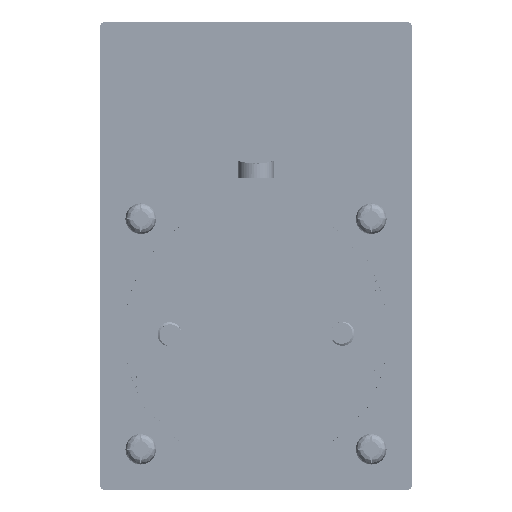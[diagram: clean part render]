
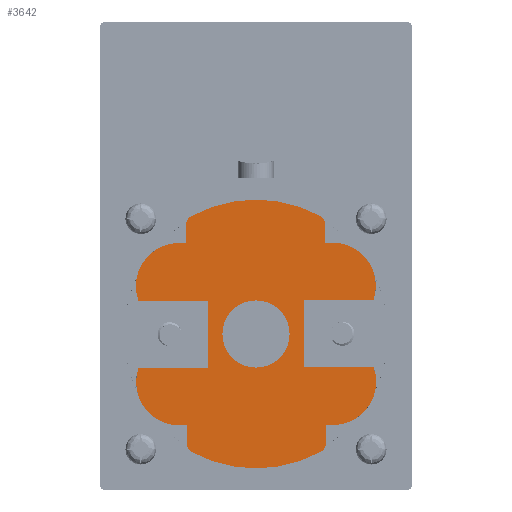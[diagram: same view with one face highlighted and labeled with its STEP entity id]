
A CAD part, front view. The second image highlights one B-rep face of the part: STEP entity #3642.
In plain terms, the highlighted planar face has unit normal (0, -1, 0).
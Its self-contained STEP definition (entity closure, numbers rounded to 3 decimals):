
#1319=FACE_BOUND('',#8009,.T.);
#1320=FACE_BOUND('',#8010,.T.);
#3642=ADVANCED_FACE('',(#1319,#1320),#4940,.F.);
#4940=PLANE('',#32927);
#8009=EDGE_LOOP('',(#15445,#15446,#15447,#15448,#15449,#15450,#15451,#15452,
#15453,#15454,#15455,#15456,#15457,#15458,#15459,#15460,#15461,#15462,#15463,
#15464,#15465,#15466,#15467,#15468,#15469));
#8010=EDGE_LOOP('',(#15470));
#8917=CIRCLE('',#31413,2.);
#8919=CIRCLE('',#31416,28.);
#8922=CIRCLE('',#31420,2.);
#8925=CIRCLE('',#31429,2.);
#8927=CIRCLE('',#31432,28.);
#8930=CIRCLE('',#31436,2.);
#9560=CIRCLE('',#32827,9.);
#9563=CIRCLE('',#32833,9.);
#9564=CIRCLE('',#32836,9.);
#9566=CIRCLE('',#32840,8.96);
#9568=CIRCLE('',#32844,9.);
#9588=CIRCLE('',#32917,7.);
#15445=ORIENTED_EDGE('',*,*,#25116,.F.);
#15446=ORIENTED_EDGE('',*,*,#24677,.T.);
#15447=ORIENTED_EDGE('',*,*,#24680,.T.);
#15448=ORIENTED_EDGE('',*,*,#22637,.T.);
#15449=ORIENTED_EDGE('',*,*,#22636,.T.);
#15450=ORIENTED_EDGE('',*,*,#22632,.T.);
#15451=ORIENTED_EDGE('',*,*,#22629,.T.);
#15452=ORIENTED_EDGE('',*,*,#22612,.T.);
#15453=ORIENTED_EDGE('',*,*,#24683,.T.);
#15454=ORIENTED_EDGE('',*,*,#24686,.T.);
#15455=ORIENTED_EDGE('',*,*,#24689,.T.);
#15456=ORIENTED_EDGE('',*,*,#25123,.F.);
#15457=ORIENTED_EDGE('',*,*,#25118,.F.);
#15458=ORIENTED_EDGE('',*,*,#25124,.F.);
#15459=ORIENTED_EDGE('',*,*,#24663,.T.);
#15460=ORIENTED_EDGE('',*,*,#24666,.T.);
#15461=ORIENTED_EDGE('',*,*,#22566,.T.);
#15462=ORIENTED_EDGE('',*,*,#22565,.T.);
#15463=ORIENTED_EDGE('',*,*,#22561,.T.);
#15464=ORIENTED_EDGE('',*,*,#22558,.T.);
#15465=ORIENTED_EDGE('',*,*,#22540,.T.);
#15466=ORIENTED_EDGE('',*,*,#24668,.T.);
#15467=ORIENTED_EDGE('',*,*,#24672,.T.);
#15468=ORIENTED_EDGE('',*,*,#25115,.F.);
#15469=ORIENTED_EDGE('',*,*,#25110,.F.);
#15470=ORIENTED_EDGE('',*,*,#25109,.F.);
#19436=VERTEX_POINT('',#45323);
#19437=VERTEX_POINT('',#45325);
#19450=VERTEX_POINT('',#45354);
#19453=VERTEX_POINT('',#45362);
#19455=VERTEX_POINT('',#45368);
#19458=VERTEX_POINT('',#45376);
#19496=VERTEX_POINT('',#45469);
#19497=VERTEX_POINT('',#45471);
#19510=VERTEX_POINT('',#45499);
#19513=VERTEX_POINT('',#45507);
#19515=VERTEX_POINT('',#45513);
#19518=VERTEX_POINT('',#45521);
#20853=VERTEX_POINT('',#79398);
#20854=VERTEX_POINT('',#79400);
#20856=VERTEX_POINT('',#79408);
#20859=VERTEX_POINT('',#79416);
#20862=VERTEX_POINT('',#79432);
#20863=VERTEX_POINT('',#79434);
#20866=VERTEX_POINT('',#79450);
#20868=VERTEX_POINT('',#79462);
#20870=VERTEX_POINT('',#79468);
#21158=VERTEX_POINT('',#107849);
#21159=VERTEX_POINT('',#107852);
#21160=VERTEX_POINT('',#107853);
#21163=VERTEX_POINT('',#107868);
#21164=VERTEX_POINT('',#107869);
#22540=EDGE_CURVE('',#19437,#19436,#27010,.T.);
#22558=EDGE_CURVE('',#19450,#19437,#8917,.T.);
#22561=EDGE_CURVE('',#19453,#19450,#8919,.T.);
#22565=EDGE_CURVE('',#19455,#19453,#8922,.T.);
#22566=EDGE_CURVE('',#19458,#19455,#27028,.T.);
#22612=EDGE_CURVE('',#19497,#19496,#27072,.T.);
#22629=EDGE_CURVE('',#19510,#19497,#8925,.T.);
#22632=EDGE_CURVE('',#19513,#19510,#8927,.T.);
#22636=EDGE_CURVE('',#19515,#19513,#8930,.T.);
#22637=EDGE_CURVE('',#19518,#19515,#27089,.T.);
#24663=EDGE_CURVE('',#20854,#20853,#9560,.T.);
#24666=EDGE_CURVE('',#20853,#19458,#28108,.T.);
#24668=EDGE_CURVE('',#19436,#20856,#28110,.T.);
#24672=EDGE_CURVE('',#20856,#20859,#9563,.T.);
#24677=EDGE_CURVE('',#20863,#20862,#9564,.T.);
#24680=EDGE_CURVE('',#20862,#19518,#28116,.T.);
#24683=EDGE_CURVE('',#19496,#20866,#9566,.T.);
#24686=EDGE_CURVE('',#20866,#20868,#28117,.T.);
#24689=EDGE_CURVE('',#20868,#20870,#9568,.T.);
#25109=EDGE_CURVE('',#21158,#21158,#9588,.T.);
#25110=EDGE_CURVE('',#21159,#21160,#28270,.T.);
#25115=EDGE_CURVE('',#21160,#20859,#28275,.T.);
#25116=EDGE_CURVE('',#20863,#21159,#28276,.T.);
#25118=EDGE_CURVE('',#21163,#21164,#28278,.T.);
#25123=EDGE_CURVE('',#21164,#20870,#28283,.T.);
#25124=EDGE_CURVE('',#20854,#21163,#28284,.T.);
#27010=LINE('',#45324,#29214);
#27028=LINE('',#45375,#29232);
#27072=LINE('',#45470,#29276);
#27089=LINE('',#45520,#29293);
#28108=LINE('',#79405,#30312);
#28110=LINE('',#79409,#30314);
#28116=LINE('',#79439,#30320);
#28117=LINE('',#79463,#30321);
#28270=LINE('',#107851,#30474);
#28275=LINE('',#107861,#30479);
#28276=LINE('',#107863,#30480);
#28278=LINE('',#107867,#30482);
#28283=LINE('',#107877,#30487);
#28284=LINE('',#107879,#30488);
#29214=VECTOR('',#34473,1.);
#29232=VECTOR('',#34515,1.);
#29276=VECTOR('',#34567,1.);
#29293=VECTOR('',#34608,1.);
#30312=VECTOR('',#38411,1.);
#30314=VECTOR('',#38415,1.);
#30320=VECTOR('',#38437,1.);
#30321=VECTOR('',#38444,1.);
#30474=VECTOR('',#38751,1.);
#30479=VECTOR('',#38758,1.);
#30480=VECTOR('',#38761,1.);
#30482=VECTOR('',#38767,1.);
#30487=VECTOR('',#38774,1.);
#30488=VECTOR('',#38777,1.);
#31413=AXIS2_PLACEMENT_3D('',#45359,#34495,#34496);
#31416=AXIS2_PLACEMENT_3D('',#45365,#34502,#34503);
#31420=AXIS2_PLACEMENT_3D('',#45373,#34511,#34512);
#31429=AXIS2_PLACEMENT_3D('',#45504,#34588,#34589);
#31432=AXIS2_PLACEMENT_3D('',#45510,#34595,#34596);
#31436=AXIS2_PLACEMENT_3D('',#45518,#34604,#34605);
#32827=AXIS2_PLACEMENT_3D('',#79399,#38404,#38405);
#32833=AXIS2_PLACEMENT_3D('',#79417,#38422,#38423);
#32836=AXIS2_PLACEMENT_3D('',#79433,#38430,#38431);
#32840=AXIS2_PLACEMENT_3D('',#79451,#38440,#38441);
#32844=AXIS2_PLACEMENT_3D('',#79469,#38450,#38451);
#32917=AXIS2_PLACEMENT_3D('',#107848,#38747,#38748);
#32927=AXIS2_PLACEMENT_3D('',#107883,#38783,#38784);
#34473=DIRECTION('',(0.003,0.,-1.));
#34495=DIRECTION('',(0.,-1.,0.));
#34496=DIRECTION('',(1.,0.,0.003));
#34502=DIRECTION('',(0.,-1.,0.));
#34503=DIRECTION('',(1.,0.,0.003));
#34511=DIRECTION('',(0.,-1.,0.));
#34512=DIRECTION('',(1.,0.,0.003));
#34515=DIRECTION('',(-0.003,0.,1.));
#34567=DIRECTION('',(-0.003,0.,1.));
#34588=DIRECTION('',(0.,-1.,0.));
#34589=DIRECTION('',(1.,0.,0.003));
#34595=DIRECTION('',(0.,-1.,0.));
#34596=DIRECTION('',(1.,0.,0.003));
#34604=DIRECTION('',(0.,-1.,0.));
#34605=DIRECTION('',(1.,0.,0.003));
#34608=DIRECTION('',(0.003,0.,-1.));
#38404=DIRECTION('',(0.,-1.,0.));
#38405=DIRECTION('',(1.,0.,0.003));
#38411=DIRECTION('',(-1.,0.,-0.003));
#38415=DIRECTION('',(-1.,0.,-0.003));
#38422=DIRECTION('',(0.,-1.,0.));
#38423=DIRECTION('',(-1.,0.,-0.003));
#38430=DIRECTION('',(0.,-1.,0.));
#38431=DIRECTION('',(-0.89,0.,0.456));
#38437=DIRECTION('',(1.,0.,0.003));
#38440=DIRECTION('',(0.,-1.,0.));
#38441=DIRECTION('',(0.,0.,-1.));
#38444=DIRECTION('',(1.,0.,0.003));
#38450=DIRECTION('',(0.,-1.,0.));
#38451=DIRECTION('',(0.,0.,-1.));
#38747=DIRECTION('',(0.,-1.,0.));
#38748=DIRECTION('',(-1.,0.,-0.003));
#38751=DIRECTION('',(-0.003,0.,1.));
#38758=DIRECTION('',(-1.,0.,-0.003));
#38761=DIRECTION('',(1.,0.,0.003));
#38767=DIRECTION('',(0.003,0.,-1.));
#38774=DIRECTION('',(1.,0.,0.003));
#38777=DIRECTION('',(-1.,0.,-0.003));
#38783=DIRECTION('',(0.,1.,0.));
#38784=DIRECTION('',(0.,0.,1.));
#45323=CARTESIAN_POINT('',(-14.549,-121.6,18.963));
#45324=CARTESIAN_POINT('',(-14.558,-121.6,22.761));
#45325=CARTESIAN_POINT('',(-14.558,-121.6,22.761));
#45354=CARTESIAN_POINT('',(-13.525,-121.6,24.517));
#45359=CARTESIAN_POINT('',(-12.558,-121.6,22.766));
#45362=CARTESIAN_POINT('',(13.398,-121.6,24.586));
#45365=CARTESIAN_POINT('',(0.,-121.6,0.));
#45368=CARTESIAN_POINT('',(14.441,-121.6,22.835));
#45373=CARTESIAN_POINT('',(12.441,-121.6,22.83));
#45375=CARTESIAN_POINT('',(14.451,-121.6,19.037));
#45376=CARTESIAN_POINT('',(14.451,-121.6,19.037));
#45469=CARTESIAN_POINT('',(14.548,-121.6,-18.837));
#45470=CARTESIAN_POINT('',(14.558,-121.6,-22.761));
#45471=CARTESIAN_POINT('',(14.558,-121.6,-22.761));
#45499=CARTESIAN_POINT('',(13.525,-121.6,-24.517));
#45504=CARTESIAN_POINT('',(12.558,-121.6,-22.766));
#45507=CARTESIAN_POINT('',(-13.398,-121.6,-24.586));
#45510=CARTESIAN_POINT('',(0.,-121.6,0.));
#45513=CARTESIAN_POINT('',(-14.441,-121.6,-22.835));
#45518=CARTESIAN_POINT('',(-12.441,-121.6,-22.83));
#45520=CARTESIAN_POINT('',(-14.451,-121.6,-19.037));
#45521=CARTESIAN_POINT('',(-14.451,-121.6,-19.037));
#79398=CARTESIAN_POINT('',(15.951,-121.6,19.041));
#79399=CARTESIAN_POINT('',(15.974,-121.6,10.041));
#79400=CARTESIAN_POINT('',(24.467,-121.6,7.063));
#79405=CARTESIAN_POINT('',(15.951,-121.6,19.041));
#79408=CARTESIAN_POINT('',(-16.049,-121.6,18.959));
#79409=CARTESIAN_POINT('',(-14.549,-121.6,18.963));
#79416=CARTESIAN_POINT('',(-24.503,-121.6,6.937));
#79417=CARTESIAN_POINT('',(-16.026,-121.6,9.959));
#79432=CARTESIAN_POINT('',(-15.951,-121.6,-19.041));
#79433=CARTESIAN_POINT('',(-15.974,-121.6,-10.041));
#79434=CARTESIAN_POINT('',(-24.468,-121.6,-7.063));
#79439=CARTESIAN_POINT('',(23.753,-121.6,-18.934));
#79450=CARTESIAN_POINT('',(15.978,-121.6,-18.959));
#79451=CARTESIAN_POINT('',(16.02,-121.6,-9.999));
#79462=CARTESIAN_POINT('',(16.119,-121.6,-18.958));
#79463=CARTESIAN_POINT('',(23.752,-121.6,-18.938));
#79468=CARTESIAN_POINT('',(24.503,-121.6,-6.937));
#79469=CARTESIAN_POINT('',(16.026,-121.6,-9.959));
#107848=CARTESIAN_POINT('',(0.,-121.6,0.));
#107849=CARTESIAN_POINT('',(-7.,-121.6,-0.018));
#107851=CARTESIAN_POINT('',(-9.982,-121.6,-7.026));
#107852=CARTESIAN_POINT('',(-9.982,-121.6,-7.026));
#107853=CARTESIAN_POINT('',(-10.018,-121.6,6.974));
#107861=CARTESIAN_POINT('',(-10.018,-121.6,6.974));
#107863=CARTESIAN_POINT('',(-34.164,-121.6,-7.088));
#107867=CARTESIAN_POINT('',(9.982,-121.6,7.026));
#107868=CARTESIAN_POINT('',(9.982,-121.6,7.026));
#107869=CARTESIAN_POINT('',(10.018,-121.6,-6.974));
#107877=CARTESIAN_POINT('',(10.018,-121.6,-6.974));
#107879=CARTESIAN_POINT('',(34.164,-121.6,7.088));
#107883=CARTESIAN_POINT('',(23.741,-121.6,-14.593));
